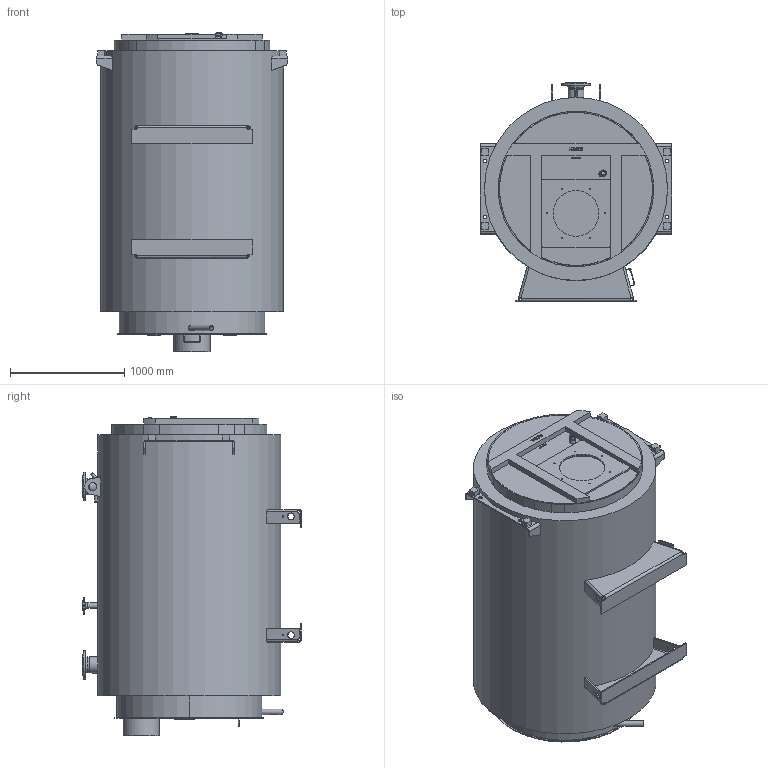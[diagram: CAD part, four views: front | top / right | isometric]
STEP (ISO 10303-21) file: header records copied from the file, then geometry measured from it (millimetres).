
FILE_DESCRIPTION(('TFLEX Exchange Step'),'2;1');
FILE_NAME('M22A003_7949967_H002.stp', '2024-07-31T15:08:55+03:00',('kort'),('Unknown organisation'),'TFLEX Exchange 2024.2','T-FLEX CAD','Unknown authorisation');
FILE_SCHEMA( ('AUTOMOTIVE_DESIGN { 1 0 10303 214 1 1 1 1 }') );
Length unit declared in the file: millimetre
Products named in the file (1): Nodes
Bounding box: 1670 x 1910 x 2794.7 mm (x, y, z)
Volume: 5021919147 mm3; surface area: 55155789.4 mm2
Topology: 77 solids, 77 shells, 961 faces, 2464 edges, 1672 vertices
Faces by surface type: plane 468, cylinder 290, bspline 115, cone 63, torus 19, sphere 6
Full cylindrical faces by diameter (mm): 1 x16, 2.2 x4, 3.2 x4, 3.3 x4, 4 x4, 6.5 x4, 10 x9, 10.11 x6, 11.45 x1, 12 x12, 13 x4, 14.63 x6, 18 x20, 18.63 x1, 18.9 x1, 22 x6, 26.9 x1, 32 x4, 35 x3, 40 x2, 40.3 x1, 41.1 x1, 41.45 x1, 43.1 x1, 44.8 x1, 45 x4, 47.8 x1, 48 x1, 48.3 x3, 60 x4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
Entity records: 45070 total; most frequent: CARTESIAN_POINT 21302, ORIENTED_EDGE 4884, DIRECTION 4602, EDGE_CURVE 2442, AXIS2_PLACEMENT_3D 1692, VERTEX_POINT 1672, VECTOR 1218, LINE 1218
